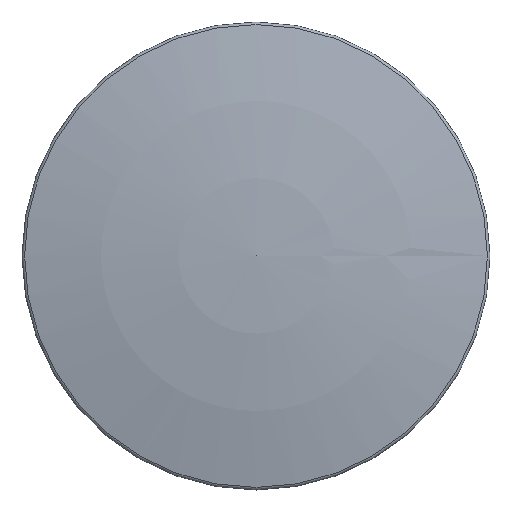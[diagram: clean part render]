
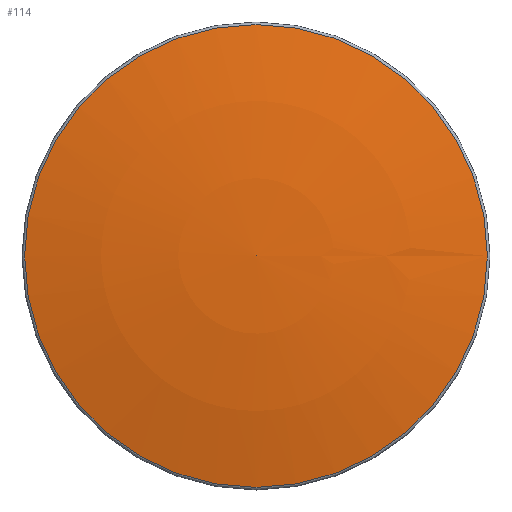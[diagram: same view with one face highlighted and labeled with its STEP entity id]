
A CAD part, top view. The second image highlights one B-rep face of the part: STEP entity #114.
In plain terms, the highlighted spherical face has radius 338.253 mm.
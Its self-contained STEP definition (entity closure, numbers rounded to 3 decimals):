
#28=FACE_OUTER_BOUND($,#38,.T.);
#38=EDGE_LOOP($,(#83));
#56=CIRCLE($,#128,70.508);
#65=VERTEX_POINT($,#188);
#74=EDGE_CURVE($,#65,#65,#56,.T.);
#83=ORIENTED_EDGE($,*,*,#74,.F.);
#101=SPHERICAL_SURFACE($,#127,338.253);
#114=ADVANCED_FACE($,(#28),#101,.T.);
#127=AXIS2_PLACEMENT_3D($,#187,#148,#149);
#128=AXIS2_PLACEMENT_3D($,#189,#150,#151);
#148=DIRECTION('center_axis',(0.,0.,1.));
#149=DIRECTION('ref_axis',(1.,0.,0.));
#150=DIRECTION('center_axis',(0.,0.,-1.));
#151=DIRECTION('ref_axis',(1.,0.,0.));
#187=CARTESIAN_POINT('Origin',(0.,0.,-264.953));
#188=CARTESIAN_POINT('',(0.,70.508,65.87));
#189=CARTESIAN_POINT('Origin',(0.,0.,65.87));
